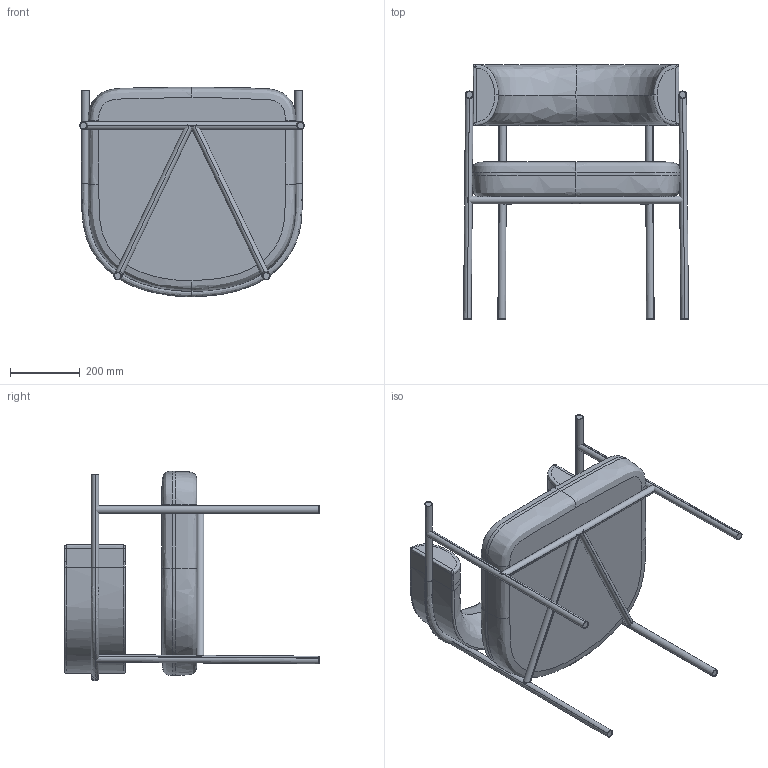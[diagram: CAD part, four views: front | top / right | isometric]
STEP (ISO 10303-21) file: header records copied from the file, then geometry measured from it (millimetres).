
FILE_DESCRIPTION (( 'STEP AP214' ), '1' );
FILE_NAME ('Karmstol B.STEP', '2025-06-18T13:44:32', ( '' ), ( '' ), 'SwSTEP 2.0', 'SolidWorks 2020', '' );
FILE_SCHEMA (( 'AUTOMOTIVE_DESIGN' ));
Length unit declared in the file: millimetre
Products named in the file (8): mod-wasp_underrede ryggbåge_Soft rygg stol B; mod-wasp_underrede delar_Tv„rstag h”ger 22; mod-wasp_underrede delar_Ben 22; mod-wasp_underrede delar_Tv„rstag v„nster 22; mod-wasp_underrede delar_Tv„rstag fram 22; mod-wasp_underrede delar_Soft sits; Karmstol B; mod-6281OB - WASP underrede_22 mm
Assembly tree (10 placements, depth 3):
  Karmstol B
    mod-6281OB - WASP underrede_22 mm
      mod-wasp_underrede ryggbåge_Soft rygg stol B
      mod-wasp_underrede delar_Ben 22  x4
      mod-wasp_underrede delar_Tv„rstag fram 22
      mod-wasp_underrede delar_Tv„rstag v„nster 22
      mod-wasp_underrede delar_Tv„rstag h”ger 22
    mod-wasp_underrede delar_Soft sits
Bounding box: 644.39 x 729.73 x 600.6 mm (x, y, z)
Volume: 42099798.2 mm3; surface area: 1989371.5 mm2
Topology: 10 solids, 11 shells, 126 faces, 244 edges, 141 vertices
Faces by surface type: bspline 60, cylinder 38, plane 28
Entity records: 12780 total; most frequent: CARTESIAN_POINT 10769, ORIENTED_EDGE 410, DIRECTION 243, EDGE_CURVE 205, VERTEX_POINT 117, EDGE_LOOP 112, FACE_OUTER_BOUND 105, ADVANCED_FACE 105
